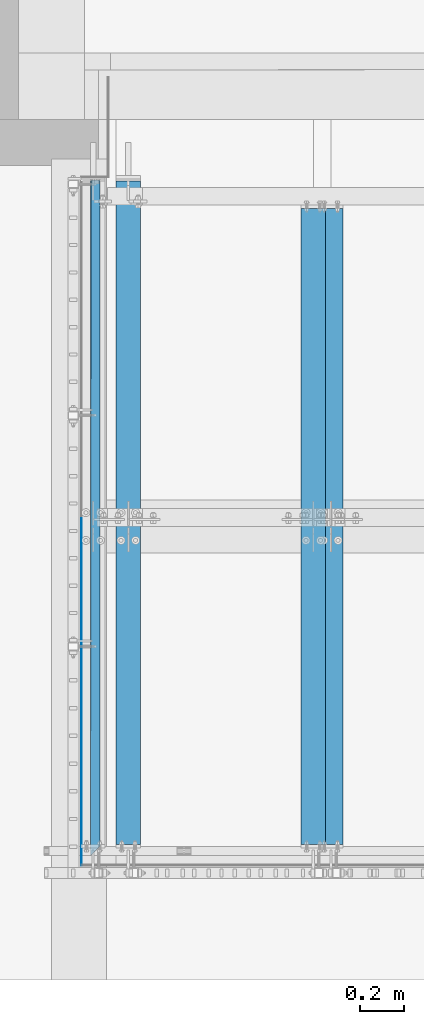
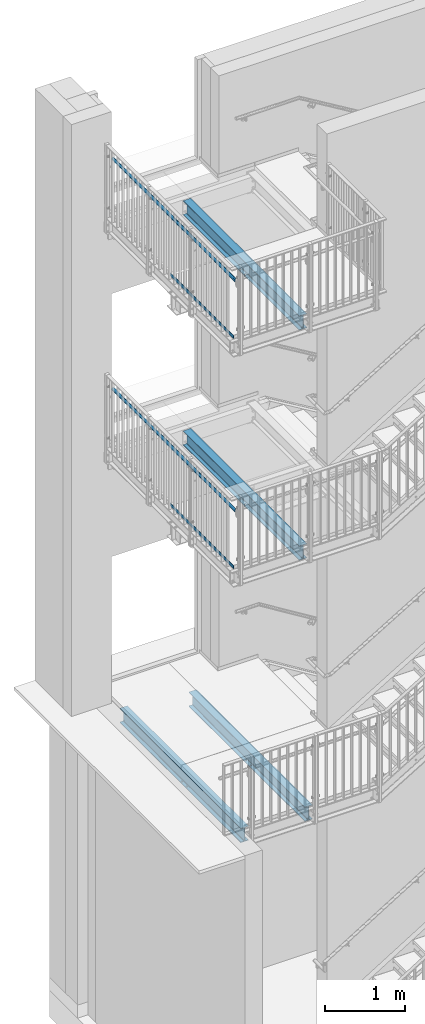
# One storey, part 26 of 410: 8 beams, 18 openings.
"""IFC2X3 building model written with IfcOpenShell, lengths in millimetres."""

import ifcopenshell
import ifcopenshell.guid

model = None  # the IFC model being written
_history = None  # IfcOwnerHistory: only IFC2X3 demands one
_inside = {}  # id of a spatial element -> (the spatial element, [elements in it])
_under = {}  # id of a project, library or spatial element -> (it, [spatial elements below it])
_declared = {}  # id of a project -> (the project, [libraries it declares])
_typed = {}  # id of a type object -> (the type object, [elements of that type])
_made_of = {}  # id of a material, layer set ... -> (it, [elements and type objects made of it])


def new_model(schema):
    """Start an empty IFC model of exactly this schema.

    Asked for "IFC4X3", IfcOpenShell would pick the latest addendum, in which some entities
    have other attributes; the version numbers below select the first issue.
    IFC2X3 requires an IfcOwnerHistory on every rooted entity: one is made here for all.
    """
    global model, _history
    if schema == "IFC4X3":
        model = ifcopenshell.file(schema_version=(4, 3, 0, 0))
    else:
        model = ifcopenshell.file(schema=schema)
    _inside.clear()
    _under.clear()
    _declared.clear()
    _typed.clear()
    _made_of.clear()
    _history = None
    if model.schema == "IFC2X3":
        org = make("IfcOrganization", Name="unknown")
        user = make(
            "IfcPersonAndOrganization",
            ThePerson=make("IfcPerson", FamilyName="unknown"),
            TheOrganization=org,
        )
        app = make(
            "IfcApplication",
            ApplicationDeveloper=org,
            Version="unknown",
            ApplicationFullName="unknown",
            ApplicationIdentifier="unknown",
        )
        _history = make(
            "IfcOwnerHistory",
            OwningUser=user,
            OwningApplication=app,
            ChangeAction="ADDED",
            CreationDate=0,
        )
    return model


def make(cls, **values):
    """One entity of the class cls with the attributes given. An attribute that is None is left unset."""
    return model.create_entity(
        cls, **{name: value for name, value in values.items() if value is not None}
    )


def entity(cls, *values):
    """Any entity or typed value of the class cls, its attributes in the order of the schema. None: left unset."""
    e = model.create_entity(cls)
    for i, value in enumerate(values):
        if value is not None:
            e[i] = value
    return e


def rooted(cls, **values):
    """An entity with a GlobalId (a new one), such as an element, a storey or a relation."""
    return make(cls, GlobalId=ifcopenshell.guid.new(), OwnerHistory=_history, **values)


def si_unit(unit_type, name, prefix=None):
    """IfcSIUnit, for example si_unit("LENGTHUNIT", "METRE", prefix="MILLI")."""
    return make("IfcSIUnit", UnitType=unit_type, Prefix=prefix, Name=name)


def converted_unit(unit_type, name, factor, base, dimensions=None, offset=None):
    """IfcConversionBasedUnit, such as the inch: factor (a typed value) times the base unit."""
    return make(
        "IfcConversionBasedUnit"
        if offset is None
        else "IfcConversionBasedUnitWithOffset",
        ConversionOffset=offset,
        Dimensions=None
        if dimensions is None
        else entity("IfcDimensionalExponents", *dimensions),
        UnitType=unit_type,
        Name=name,
        ConversionFactor=make(
            "IfcMeasureWithUnit", ValueComponent=factor, UnitComponent=base
        ),
    )


def assignment(units):
    """IfcUnitAssignment: the units of a project."""
    return None if units is None else make("IfcUnitAssignment", Units=units)


def point(xyz):
    """IfcCartesianPoint."""
    return None if xyz is None else make("IfcCartesianPoint", Coordinates=xyz)


def direction(xyz):
    """IfcDirection."""
    return None if xyz is None else make("IfcDirection", DirectionRatios=xyz)


def frame(location, z_axis=None, x_axis=None):
    """IfcAxis2Placement3D, a coordinate frame: its origin and axes. An axis left out is left unset."""
    return make(
        "IfcAxis2Placement3D",
        Location=point(location),
        Axis=direction(z_axis),
        RefDirection=direction(x_axis),
    )


def frame_2d(location, x_axis=None):
    """IfcAxis2Placement2D, a coordinate frame in the plane: its origin and x axis."""
    return make(
        "IfcAxis2Placement2D", Location=point(location), RefDirection=direction(x_axis)
    )


def origin():
    """The frame at (0, 0, 0) with its axes left unset."""
    return frame((0.0, 0.0, 0.0))


def origin_with_axes():
    """The frame at (0, 0, 0) with the z axis (0, 0, 1) and the x axis (1, 0, 0) written out."""
    return frame((0.0, 0.0, 0.0), z_axis=(0.0, 0.0, 1.0), x_axis=(1.0, 0.0, 0.0))


def origin_2d():
    """The frame at (0, 0) in the plane with its x axis left unset."""
    return frame_2d((0.0, 0.0))


def origin_2d_with_axis():
    """The frame at (0, 0) in the plane with the x axis (1, 0) written out."""
    return frame_2d((0.0, 0.0), x_axis=(1.0, 0.0))


def place(relative_to, where):
    """IfcLocalPlacement: puts the frame where relative to a parent placement (None: the world)."""
    return make(
        "IfcLocalPlacement", PlacementRelTo=relative_to, RelativePlacement=where
    )


def context(
    kind, dimensions, precision=None, world=None, true_north=None, identifier=None
):
    """IfcGeometricRepresentationContext, for example the 3D "Model" context."""
    return make(
        "IfcGeometricRepresentationContext",
        ContextIdentifier=identifier,
        ContextType=kind,
        CoordinateSpaceDimension=dimensions,
        Precision=precision,
        WorldCoordinateSystem=world,
        TrueNorth=true_north,
    )


def project(units=None, contexts=None):
    """IfcProject with its units and contexts."""
    return rooted(
        "IfcProject",
        Name="project",
        RepresentationContexts=contexts,
        UnitsInContext=assignment(units),
    )


def spatial(cls, under=None, at=None, **own):
    """A site, building, storey or space (cls), placed at a placement, below another one or the project."""
    s = rooted(cls, ObjectPlacement=at, **own)
    if under is not None:
        _under.setdefault(under.id(), (under, []))[1].append(s)
    return s


def circle_curve(where, radius):
    """IfcCircle in the frame where."""
    return make("IfcCircle", Position=where, Radius=radius)


def line_curve(start, along, magnitude):
    """IfcLine from a point along a vector."""
    return make(
        "IfcLine",
        Pnt=point(start),
        Dir=make("IfcVector", Orientation=direction(along), Magnitude=magnitude),
    )


def trimmed(basis, trim1, trim2, sense, master):
    """IfcTrimmedCurve: the piece of a basis curve between two trims."""
    return make(
        "IfcTrimmedCurve",
        BasisCurve=basis,
        Trim1=trim1,
        Trim2=trim2,
        SenseAgreement=sense,
        MasterRepresentation=master,
    )


def segment(curve, same_sense, transition):
    """IfcCompositeCurveSegment."""
    return make(
        "IfcCompositeCurveSegment",
        Transition=transition,
        SameSense=same_sense,
        ParentCurve=curve,
    )


def composite_curve(segments, self_intersect=None):
    """IfcCompositeCurve: segments joined end to end."""
    return make("IfcCompositeCurve", Segments=segments, SelfIntersect=self_intersect)


def profile(cls, at=None, kind="AREA", **sizes):
    """A parametric profile (cls). Its sizes go by their IFC names, for example OverallWidth=200.0."""
    return make(cls, ProfileType=kind, Position=at, **sizes)


def rectangle(**sizes):
    """IfcRectangleProfileDef."""
    return profile("IfcRectangleProfileDef", **sizes)


def circle(**sizes):
    """IfcCircleProfileDef."""
    return profile("IfcCircleProfileDef", **sizes)


def hollow_circle(**sizes):
    """IfcCircleHollowProfileDef."""
    return profile("IfcCircleHollowProfileDef", **sizes)


def i_section(**sizes):
    """IfcIShapeProfileDef."""
    return profile("IfcIShapeProfileDef", **sizes)


def outline(outer, holes=None, kind="AREA"):
    """IfcArbitraryClosedProfileDef: a profile drawn as a closed curve; with holes, ...WithVoids."""
    if holes is None:
        return make("IfcArbitraryClosedProfileDef", ProfileType=kind, OuterCurve=outer)
    return make(
        "IfcArbitraryProfileDefWithVoids",
        ProfileType=kind,
        OuterCurve=outer,
        InnerCurves=holes,
    )


def extrude(swept, where, along, depth):
    """IfcExtrudedAreaSolid: the profile swept, set in the frame where, extruded along a direction by depth."""
    return make(
        "IfcExtrudedAreaSolid",
        SweptArea=swept,
        Position=where,
        ExtrudedDirection=direction(along),
        Depth=depth,
    )


def clip(a, b, op="DIFFERENCE"):
    """IfcBooleanClippingResult: the solid a cut by the half space b."""
    return make(
        "IfcBooleanClippingResult", Operator=op, FirstOperand=a, SecondOperand=b
    )


def halfspace(plane, agree):
    """IfcHalfSpaceSolid: all space on one side of the plane z = 0 of the frame plane."""
    return make(
        "IfcHalfSpaceSolid",
        BaseSurface=make("IfcPlane", Position=plane),
        AgreementFlag=agree,
    )


def shape(context_of_items, identifier, shape_type, items):
    """IfcShapeRepresentation: the items that make up one representation, for example the "Body"."""
    return make(
        "IfcShapeRepresentation",
        ContextOfItems=context_of_items,
        RepresentationIdentifier=identifier,
        RepresentationType=shape_type,
        Items=items,
    )


def material(Name=None, Category=None):
    """IfcMaterial."""
    return make("IfcMaterial", Name=Name, Category=Category)


def made_of(thing, what):
    """Note that an element or type object is made of a material, layer set ...; save() writes the relation."""
    if what is not None:
        _made_of.setdefault(what.id(), (what, []))[1].append(thing)
    return thing


def element(
    cls,
    number,
    at=None,
    inside=None,
    cuts=None,
    type_object=None,
    material=None,
    context=None,
    identifier="Body",
    shape_type=None,
    held_by="IfcProductDefinitionShape",
    body=None,
    shapes=None,
    **own,
):
    """One element of the class cls, such as IfcWall. Its Tag is "e" and its number.

    at: its placement. inside: the storey or other place that contains it. cuts: it is an
    opening in that element (IfcRelVoidsElement). A single representation is given by context,
    identifier, shape_type and body (its items); several are given by shapes. held_by: the class
    of the entity that holds the representations. save() writes the other relations.
    """
    e = rooted(cls, Tag="e%d" % number, ObjectPlacement=at, **own)
    if body is not None:
        shapes = [shape(context, identifier, shape_type, body)]
    if shapes is not None:
        e.Representation = make(held_by, Representations=shapes)
    if inside is not None:
        _inside.setdefault(inside.id(), (inside, []))[1].append(e)
    if cuts is not None:
        rooted(
            "IfcRelVoidsElement", RelatingBuildingElement=cuts, RelatedOpeningElement=e
        )
    if type_object is not None:
        _typed.setdefault(type_object.id(), (type_object, []))[1].append(e)
    return made_of(e, material)


def aggregate(whole, parts):
    """IfcRelAggregates: a whole, such as a stair, and the parts it consists of."""
    return rooted("IfcRelAggregates", RelatingObject=whole, RelatedObjects=parts)


def save(model, path):
    """Write the relations noted so far, then the file.

    IfcRelAggregates (storeys below a building ...), IfcRelContainedInSpatialStructure (elements
    in a storey), IfcRelDefinesByType, IfcRelAssociatesMaterial and IfcRelDeclares: one each for
    every whole, place, type object, material and project.
    """
    for whole, parts in _under.values():
        aggregate(whole, parts)
    for where, things in _inside.values():
        rooted(
            "IfcRelContainedInSpatialStructure",
            RelatedElements=things,
            RelatingStructure=where,
        )
    for kind, things in _typed.values():
        rooted("IfcRelDefinesByType", RelatedObjects=things, RelatingType=kind)
    for what, things in _made_of.values():
        rooted("IfcRelAssociatesMaterial", RelatedObjects=things, RelatingMaterial=what)
    for by, libraries in _declared.values():
        rooted("IfcRelDeclares", RelatingContext=by, RelatedDefinitions=libraries)
    model.write(path)


model = new_model("IFC2X3")

# Units and contexts
model_context = context("Model", 3, precision=1e-09, world=origin_with_axes())
ifc_project = project(units=[si_unit("LENGTHUNIT", "METRE", prefix="MILLI"), si_unit("AREAUNIT", "SQUARE_METRE"), si_unit("VOLUMEUNIT", "CUBIC_METRE"), converted_unit("PLANEANGLEUNIT", "DEGREE", entity("IfcPlaneAngleMeasure", 0.01745329), si_unit("PLANEANGLEUNIT", "RADIAN"), dimensions=[0, 0, 0, 0, 0, 0, 0])], contexts=[model_context])

# Site, building, storey
site_placement = place(None, origin_with_axes())
site = spatial("IfcSite", under=ifc_project, at=site_placement, Name="mKR Teilneubau & Sanierung BA1 - Ostfildern", CompositionType="ELEMENT")
building_placement = place(site_placement, origin_with_axes())
building = spatial("IfcBuilding", under=site, at=building_placement, Name="Struktur 1", CompositionType="ELEMENT")
storey_placement = place(building_placement, origin_with_axes())
storey = spatial("IfcBuildingStorey", under=building, at=storey_placement, Name="Default Storey", CompositionType="ELEMENT", Elevation=0.0)

# Beam, openings
ifc_material = material(Name="S235JR")
beam_1_placement = place(None, frame((-2809.9985317, 18424.99935555, 7330.0), z_axis=(0.0, 1.0, 0.0), x_axis=(1.0, 0.0, 0.0)))
beam_1 = element("IfcBeam", 1, at=beam_1_placement, inside=storey, material=ifc_material, Name="-", ObjectType="-", context=model_context, shape_type="SweptSolid", body=[
    extrude(i_section(OverallWidth=110.0, OverallDepth=220.0, WebThickness=5.9, FlangeThickness=9.2, FilletRadius=12.0, at=origin_2d()), origin(), (0.0, 0.0, -1.0), 2889.999355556),
])
opening_1_placement = place(beam_1_placement, frame((33.0, 110.5, -1381.99935555), z_axis=(0.0, -1.0, 0.0), x_axis=(1.0, 0.0, 0.0)))
element("IfcOpeningElement", 2, at=opening_1_placement, cuts=beam_1, ObjectType="Opening", context=model_context, shape_type="SweptSolid", body=[
    extrude(outline(composite_curve([segment(trimmed(line_curve((7.001, -8.0), (0.0, 1.0), 16.0), [point((7.001, -8.0))], [point((7.001, 8.0))], True, "CARTESIAN"), True, "CONTINUOUS"), segment(trimmed(circle_curve(frame_2d((0.0, 8.0), x_axis=(1.0, 0.0)), 7.001), [point((7.001, 8.0))], [point((-7.001, 8.0))], True, "CARTESIAN"), True, "CONTINUOUS"), segment(trimmed(line_curve((-7.001, 8.0), (0.0, -1.0), 16.0), [point((-7.001, 8.0))], [point((-7.001, -8.0))], True, "CARTESIAN"), True, "CONTINUOUS"), segment(trimmed(circle_curve(frame_2d((0.0, -8.0), x_axis=(1.0, 0.0)), 7.001), [point((-7.001, -8.0))], [point((7.001, -8.0))], True, "CARTESIAN"), True, "CONTINUOUS")], self_intersect=False)), origin(), (0.0, 0.0, 1.0), 10.2),
])
opening_2_placement = place(beam_1_placement, frame((33.0, 110.5, -1507.99935555), z_axis=(0.0, -1.0, 0.0), x_axis=(1.0, 0.0, 0.0)))
element("IfcOpeningElement", 3, at=opening_2_placement, cuts=beam_1, ObjectType="Opening", context=model_context, shape_type="SweptSolid", body=[
    extrude(outline(composite_curve([segment(trimmed(line_curve((7.001, -8.0), (0.0, 1.0), 16.0), [point((7.001, -8.0))], [point((7.001, 8.0))], True, "CARTESIAN"), True, "CONTINUOUS"), segment(trimmed(circle_curve(frame_2d((0.0, 8.0), x_axis=(1.0, 0.0)), 7.001), [point((7.001, 8.0))], [point((-7.001, 8.0))], True, "CARTESIAN"), True, "CONTINUOUS"), segment(trimmed(line_curve((-7.001, 8.0), (0.0, -1.0), 16.0), [point((-7.001, 8.0))], [point((-7.001, -8.0))], True, "CARTESIAN"), True, "CONTINUOUS"), segment(trimmed(circle_curve(frame_2d((0.0, -8.0), x_axis=(1.0, 0.0)), 7.001), [point((-7.001, -8.0))], [point((7.001, -8.0))], True, "CARTESIAN"), True, "CONTINUOUS")], self_intersect=False)), origin(), (0.0, 0.0, 1.0), 10.2),
])
opening_3_placement = place(beam_1_placement, frame((-33.0, 110.5, -1381.99935555), z_axis=(0.0, -1.0, 0.0), x_axis=(1.0, 0.0, 0.0)))
element("IfcOpeningElement", 4, at=opening_3_placement, cuts=beam_1, ObjectType="Opening", context=model_context, shape_type="SweptSolid", body=[
    extrude(outline(composite_curve([segment(trimmed(line_curve((7.001, -8.0), (0.0, 1.0), 16.0), [point((7.001, -8.0))], [point((7.001, 8.0))], True, "CARTESIAN"), True, "CONTINUOUS"), segment(trimmed(circle_curve(frame_2d((0.0, 8.0), x_axis=(1.0, 0.0)), 7.001), [point((7.001, 8.0))], [point((-7.001, 8.0))], True, "CARTESIAN"), True, "CONTINUOUS"), segment(trimmed(line_curve((-7.001, 8.0), (0.0, -1.0), 16.0), [point((-7.001, 8.0))], [point((-7.001, -8.0))], True, "CARTESIAN"), True, "CONTINUOUS"), segment(trimmed(circle_curve(frame_2d((0.0, -8.0), x_axis=(1.0, 0.0)), 7.001), [point((-7.001, -8.0))], [point((7.001, -8.0))], True, "CARTESIAN"), True, "CONTINUOUS")], self_intersect=False)), origin(), (0.0, 0.0, 1.0), 10.2),
])
opening_4_placement = place(beam_1_placement, frame((-33.0, 110.5, -1507.99935555), z_axis=(0.0, -1.0, 0.0), x_axis=(1.0, 0.0, 0.0)))
element("IfcOpeningElement", 5, at=opening_4_placement, cuts=beam_1, ObjectType="Opening", context=model_context, shape_type="SweptSolid", body=[
    extrude(outline(composite_curve([segment(trimmed(line_curve((7.001, -8.0), (0.0, 1.0), 16.0), [point((7.001, -8.0))], [point((7.001, 8.0))], True, "CARTESIAN"), True, "CONTINUOUS"), segment(trimmed(circle_curve(frame_2d((0.0, 8.0), x_axis=(1.0, 0.0)), 7.001), [point((7.001, 8.0))], [point((-7.001, 8.0))], True, "CARTESIAN"), True, "CONTINUOUS"), segment(trimmed(line_curve((-7.001, 8.0), (0.0, -1.0), 16.0), [point((-7.001, 8.0))], [point((-7.001, -8.0))], True, "CARTESIAN"), True, "CONTINUOUS"), segment(trimmed(circle_curve(frame_2d((0.0, -8.0), x_axis=(1.0, 0.0)), 7.001), [point((-7.001, -8.0))], [point((7.001, -8.0))], True, "CARTESIAN"), True, "CONTINUOUS")], self_intersect=False)), origin(), (0.0, 0.0, 1.0), 10.2),
])

beam_2_placement = place(None, frame((-2809.9985317, 18424.99935555, 3830.0), z_axis=(0.0, 1.0, 0.0), x_axis=(1.0, 0.0, 0.0)))
beam_2 = element("IfcBeam", 6, at=beam_2_placement, inside=storey, material=ifc_material, Name="-", ObjectType="-", context=model_context, shape_type="SweptSolid", body=[
    extrude(i_section(OverallWidth=110.0, OverallDepth=220.0, WebThickness=5.9, FlangeThickness=9.2, FilletRadius=12.0, at=origin_2d()), origin(), (0.0, 0.0, -1.0), 2889.999355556),
])
opening_5_placement = place(beam_2_placement, frame((-33.0, 110.5, -1381.99935555), z_axis=(0.0, -1.0, 0.0), x_axis=(1.0, 0.0, 0.0)))
element("IfcOpeningElement", 7, at=opening_5_placement, cuts=beam_2, ObjectType="Opening", context=model_context, shape_type="SweptSolid", body=[
    extrude(outline(composite_curve([segment(trimmed(line_curve((7.001, -8.0), (0.0, 1.0), 16.0), [point((7.001, -8.0))], [point((7.001, 8.0))], True, "CARTESIAN"), True, "CONTINUOUS"), segment(trimmed(circle_curve(frame_2d((0.0, 8.0), x_axis=(1.0, 0.0)), 7.001), [point((7.001, 8.0))], [point((-7.001, 8.0))], True, "CARTESIAN"), True, "CONTINUOUS"), segment(trimmed(line_curve((-7.001, 8.0), (0.0, -1.0), 16.0), [point((-7.001, 8.0))], [point((-7.001, -8.0))], True, "CARTESIAN"), True, "CONTINUOUS"), segment(trimmed(circle_curve(frame_2d((0.0, -8.0), x_axis=(1.0, 0.0)), 7.001), [point((-7.001, -8.0))], [point((7.001, -8.0))], True, "CARTESIAN"), True, "CONTINUOUS")], self_intersect=False)), origin(), (0.0, 0.0, 1.0), 10.2),
])
opening_6_placement = place(beam_2_placement, frame((33.0, 110.5, -1381.99935555), z_axis=(0.0, -1.0, 0.0), x_axis=(1.0, 0.0, 0.0)))
element("IfcOpeningElement", 8, at=opening_6_placement, cuts=beam_2, ObjectType="Opening", context=model_context, shape_type="SweptSolid", body=[
    extrude(outline(composite_curve([segment(trimmed(line_curve((7.001, -8.0), (0.0, 1.0), 16.0), [point((7.001, -8.0))], [point((7.001, 8.0))], True, "CARTESIAN"), True, "CONTINUOUS"), segment(trimmed(circle_curve(frame_2d((0.0, 8.0), x_axis=(1.0, 0.0)), 7.001), [point((7.001, 8.0))], [point((-7.001, 8.0))], True, "CARTESIAN"), True, "CONTINUOUS"), segment(trimmed(line_curve((-7.001, 8.0), (0.0, -1.0), 16.0), [point((-7.001, 8.0))], [point((-7.001, -8.0))], True, "CARTESIAN"), True, "CONTINUOUS"), segment(trimmed(circle_curve(frame_2d((0.0, -8.0), x_axis=(1.0, 0.0)), 7.001), [point((-7.001, -8.0))], [point((7.001, -8.0))], True, "CARTESIAN"), True, "CONTINUOUS")], self_intersect=False)), origin(), (0.0, 0.0, 1.0), 10.2),
])
opening_7_placement = place(beam_2_placement, frame((33.0, 110.5, -1507.99935555), z_axis=(0.0, -1.0, 0.0), x_axis=(1.0, 0.0, 0.0)))
element("IfcOpeningElement", 9, at=opening_7_placement, cuts=beam_2, ObjectType="Opening", context=model_context, shape_type="SweptSolid", body=[
    extrude(outline(composite_curve([segment(trimmed(line_curve((7.001, -8.0), (0.0, 1.0), 16.0), [point((7.001, -8.0))], [point((7.001, 8.0))], True, "CARTESIAN"), True, "CONTINUOUS"), segment(trimmed(circle_curve(frame_2d((0.0, 8.0), x_axis=(1.0, 0.0)), 7.001), [point((7.001, 8.0))], [point((-7.001, 8.0))], True, "CARTESIAN"), True, "CONTINUOUS"), segment(trimmed(line_curve((-7.001, 8.0), (0.0, -1.0), 16.0), [point((-7.001, 8.0))], [point((-7.001, -8.0))], True, "CARTESIAN"), True, "CONTINUOUS"), segment(trimmed(circle_curve(frame_2d((0.0, -8.0), x_axis=(1.0, 0.0)), 7.001), [point((-7.001, -8.0))], [point((7.001, -8.0))], True, "CARTESIAN"), True, "CONTINUOUS")], self_intersect=False)), origin(), (0.0, 0.0, 1.0), 10.2),
])
opening_8_placement = place(beam_2_placement, frame((-33.0, 110.5, -1507.99935555), z_axis=(0.0, -1.0, 0.0), x_axis=(1.0, 0.0, 0.0)))
element("IfcOpeningElement", 10, at=opening_8_placement, cuts=beam_2, ObjectType="Opening", context=model_context, shape_type="SweptSolid", body=[
    extrude(outline(composite_curve([segment(trimmed(line_curve((7.001, -8.0), (0.0, 1.0), 16.0), [point((7.001, -8.0))], [point((7.001, 8.0))], True, "CARTESIAN"), True, "CONTINUOUS"), segment(trimmed(circle_curve(frame_2d((0.0, 8.0), x_axis=(1.0, 0.0)), 7.001), [point((7.001, 8.0))], [point((-7.001, 8.0))], True, "CARTESIAN"), True, "CONTINUOUS"), segment(trimmed(line_curve((-7.001, 8.0), (0.0, -1.0), 16.0), [point((-7.001, 8.0))], [point((-7.001, -8.0))], True, "CARTESIAN"), True, "CONTINUOUS"), segment(trimmed(circle_curve(frame_2d((0.0, -8.0), x_axis=(1.0, 0.0)), 7.001), [point((-7.001, -8.0))], [point((7.001, -8.0))], True, "CARTESIAN"), True, "CONTINUOUS")], self_intersect=False)), origin(), (0.0, 0.0, 1.0), 10.2),
])

beam_3_placement = place(None, frame((-2729.9985317, 18424.99935555, -170.0), z_axis=(0.0, 1.0, 0.0), x_axis=(1.0, 0.0, 0.0)))
beam_3 = element("IfcBeam", 11, at=beam_3_placement, inside=storey, material=ifc_material, Name="-", ObjectType="-", context=model_context, shape_type="SweptSolid", body=[
    extrude(i_section(OverallWidth=110.0, OverallDepth=220.0, WebThickness=5.9, FlangeThickness=9.2, FilletRadius=12.0, at=origin_2d()), origin(), (0.0, 0.0, -1.0), 2889.999355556),
])
opening_9_placement = place(beam_3_placement, frame((-33.0, 110.5, -1381.99935555), z_axis=(0.0, -1.0, 0.0), x_axis=(1.0, 0.0, 0.0)))
element("IfcOpeningElement", 12, at=opening_9_placement, cuts=beam_3, ObjectType="Opening", context=model_context, shape_type="SweptSolid", body=[
    extrude(outline(composite_curve([segment(trimmed(line_curve((7.001, -8.0), (0.0, 1.0), 16.0), [point((7.001, -8.0))], [point((7.001, 8.0))], True, "CARTESIAN"), True, "CONTINUOUS"), segment(trimmed(circle_curve(frame_2d((0.0, 8.0), x_axis=(1.0, 0.0)), 7.001), [point((7.001, 8.0))], [point((-7.001, 8.0))], True, "CARTESIAN"), True, "CONTINUOUS"), segment(trimmed(line_curve((-7.001, 8.0), (0.0, -1.0), 16.0), [point((-7.001, 8.0))], [point((-7.001, -8.0))], True, "CARTESIAN"), True, "CONTINUOUS"), segment(trimmed(circle_curve(frame_2d((0.0, -8.0), x_axis=(1.0, 0.0)), 7.001), [point((-7.001, -8.0))], [point((7.001, -8.0))], True, "CARTESIAN"), True, "CONTINUOUS")], self_intersect=False)), origin(), (0.0, 0.0, 1.0), 10.2),
])
opening_10_placement = place(beam_3_placement, frame((-33.0, 110.5, -1507.99935555), z_axis=(0.0, -1.0, 0.0), x_axis=(1.0, 0.0, 0.0)))
element("IfcOpeningElement", 13, at=opening_10_placement, cuts=beam_3, ObjectType="Opening", context=model_context, shape_type="SweptSolid", body=[
    extrude(outline(composite_curve([segment(trimmed(line_curve((7.001, -8.0), (0.0, 1.0), 16.0), [point((7.001, -8.0))], [point((7.001, 8.0))], True, "CARTESIAN"), True, "CONTINUOUS"), segment(trimmed(circle_curve(frame_2d((0.0, 8.0), x_axis=(1.0, 0.0)), 7.001), [point((7.001, 8.0))], [point((-7.001, 8.0))], True, "CARTESIAN"), True, "CONTINUOUS"), segment(trimmed(line_curve((-7.001, 8.0), (0.0, -1.0), 16.0), [point((-7.001, 8.0))], [point((-7.001, -8.0))], True, "CARTESIAN"), True, "CONTINUOUS"), segment(trimmed(circle_curve(frame_2d((0.0, -8.0), x_axis=(1.0, 0.0)), 7.001), [point((-7.001, -8.0))], [point((7.001, -8.0))], True, "CARTESIAN"), True, "CONTINUOUS")], self_intersect=False)), origin(), (0.0, 0.0, 1.0), 10.2),
])
opening_11_placement = place(beam_3_placement, frame((33.0, 110.5, -1381.99935555), z_axis=(0.0, -1.0, 0.0), x_axis=(1.0, 0.0, 0.0)))
element("IfcOpeningElement", 14, at=opening_11_placement, cuts=beam_3, ObjectType="Opening", context=model_context, shape_type="SweptSolid", body=[
    extrude(outline(composite_curve([segment(trimmed(line_curve((7.001, -8.0), (0.0, 1.0), 16.0), [point((7.001, -8.0))], [point((7.001, 8.0))], True, "CARTESIAN"), True, "CONTINUOUS"), segment(trimmed(circle_curve(frame_2d((0.0, 8.0), x_axis=(1.0, 0.0)), 7.001), [point((7.001, 8.0))], [point((-7.001, 8.0))], True, "CARTESIAN"), True, "CONTINUOUS"), segment(trimmed(line_curve((-7.001, 8.0), (0.0, -1.0), 16.0), [point((-7.001, 8.0))], [point((-7.001, -8.0))], True, "CARTESIAN"), True, "CONTINUOUS"), segment(trimmed(circle_curve(frame_2d((0.0, -8.0), x_axis=(1.0, 0.0)), 7.001), [point((-7.001, -8.0))], [point((7.001, -8.0))], True, "CARTESIAN"), True, "CONTINUOUS")], self_intersect=False)), origin(), (0.0, 0.0, 1.0), 10.2),
])
opening_12_placement = place(beam_3_placement, frame((33.0, 110.5, -1507.99935555), z_axis=(0.0, -1.0, 0.0), x_axis=(1.0, 0.0, 0.0)))
element("IfcOpeningElement", 15, at=opening_12_placement, cuts=beam_3, ObjectType="Opening", context=model_context, shape_type="SweptSolid", body=[
    extrude(outline(composite_curve([segment(trimmed(line_curve((7.001, -8.0), (0.0, 1.0), 16.0), [point((7.001, -8.0))], [point((7.001, 8.0))], True, "CARTESIAN"), True, "CONTINUOUS"), segment(trimmed(circle_curve(frame_2d((0.0, 8.0), x_axis=(1.0, 0.0)), 7.001), [point((7.001, 8.0))], [point((-7.001, 8.0))], True, "CARTESIAN"), True, "CONTINUOUS"), segment(trimmed(line_curve((-7.001, 8.0), (0.0, -1.0), 16.0), [point((-7.001, 8.0))], [point((-7.001, -8.0))], True, "CARTESIAN"), True, "CONTINUOUS"), segment(trimmed(circle_curve(frame_2d((0.0, -8.0), x_axis=(1.0, 0.0)), 7.001), [point((-7.001, -8.0))], [point((7.001, -8.0))], True, "CARTESIAN"), True, "CONTINUOUS")], self_intersect=False)), origin(), (0.0, 0.0, 1.0), 10.2),
])

beam_4_placement = place(None, frame((-3649.9985317, 18549.99935555, -170.0), z_axis=(0.0, 1.0, 0.0), x_axis=(1.0, 0.0, 0.0)))
beam_4 = element("IfcBeam", 16, at=beam_4_placement, inside=storey, material=ifc_material, Name="-", ObjectType="-", context=model_context, shape_type="SweptSolid", body=[
    extrude(i_section(OverallWidth=110.0, OverallDepth=220.0, WebThickness=5.9, FlangeThickness=9.2, FilletRadius=12.0, at=origin_2d()), origin(), (0.0, 0.0, -1.0), 3014.999355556),
])
opening_13_placement = place(beam_4_placement, frame((33.0, 110.5, -1632.99935555), z_axis=(0.0, -1.0, 0.0), x_axis=(1.0, 0.0, 0.0)))
element("IfcOpeningElement", 17, at=opening_13_placement, cuts=beam_4, ObjectType="Opening", context=model_context, shape_type="SweptSolid", body=[
    extrude(outline(composite_curve([segment(trimmed(line_curve((7.001, -8.0), (0.0, 1.0), 16.0), [point((7.001, -8.0))], [point((7.001, 8.0))], True, "CARTESIAN"), True, "CONTINUOUS"), segment(trimmed(circle_curve(frame_2d((0.0, 8.0), x_axis=(1.0, 0.0)), 7.001), [point((7.001, 8.0))], [point((-7.001, 8.0))], True, "CARTESIAN"), True, "CONTINUOUS"), segment(trimmed(line_curve((-7.001, 8.0), (0.0, -1.0), 16.0), [point((-7.001, 8.0))], [point((-7.001, -8.0))], True, "CARTESIAN"), True, "CONTINUOUS"), segment(trimmed(circle_curve(frame_2d((0.0, -8.0), x_axis=(1.0, 0.0)), 7.001), [point((-7.001, -8.0))], [point((7.001, -8.0))], True, "CARTESIAN"), True, "CONTINUOUS")], self_intersect=False)), origin(), (0.0, 0.0, 1.0), 10.2),
])
opening_14_placement = place(beam_4_placement, frame((33.0, 110.5, -1506.99935555), z_axis=(0.0, -1.0, 0.0), x_axis=(1.0, 0.0, 0.0)))
element("IfcOpeningElement", 18, at=opening_14_placement, cuts=beam_4, ObjectType="Opening", context=model_context, shape_type="SweptSolid", body=[
    extrude(outline(composite_curve([segment(trimmed(line_curve((7.001, -8.0), (0.0, 1.0), 16.0), [point((7.001, -8.0))], [point((7.001, 8.0))], True, "CARTESIAN"), True, "CONTINUOUS"), segment(trimmed(circle_curve(frame_2d((0.0, 8.0), x_axis=(1.0, 0.0)), 7.001), [point((7.001, 8.0))], [point((-7.001, 8.0))], True, "CARTESIAN"), True, "CONTINUOUS"), segment(trimmed(line_curve((-7.001, 8.0), (0.0, -1.0), 16.0), [point((-7.001, 8.0))], [point((-7.001, -8.0))], True, "CARTESIAN"), True, "CONTINUOUS"), segment(trimmed(circle_curve(frame_2d((0.0, -8.0), x_axis=(1.0, 0.0)), 7.001), [point((-7.001, -8.0))], [point((7.001, -8.0))], True, "CARTESIAN"), True, "CONTINUOUS")], self_intersect=False)), origin(), (0.0, 0.0, 1.0), 10.2),
])
opening_15_placement = place(beam_4_placement, frame((-33.0, 110.5, -1632.99935555), z_axis=(0.0, -1.0, 0.0), x_axis=(1.0, 0.0, 0.0)))
element("IfcOpeningElement", 19, at=opening_15_placement, cuts=beam_4, ObjectType="Opening", context=model_context, shape_type="SweptSolid", body=[
    extrude(outline(composite_curve([segment(trimmed(line_curve((7.001, -8.0), (0.0, 1.0), 16.0), [point((7.001, -8.0))], [point((7.001, 8.0))], True, "CARTESIAN"), True, "CONTINUOUS"), segment(trimmed(circle_curve(frame_2d((0.0, 8.0), x_axis=(1.0, 0.0)), 7.001), [point((7.001, 8.0))], [point((-7.001, 8.0))], True, "CARTESIAN"), True, "CONTINUOUS"), segment(trimmed(line_curve((-7.001, 8.0), (0.0, -1.0), 16.0), [point((-7.001, 8.0))], [point((-7.001, -8.0))], True, "CARTESIAN"), True, "CONTINUOUS"), segment(trimmed(circle_curve(frame_2d((0.0, -8.0), x_axis=(1.0, 0.0)), 7.001), [point((-7.001, -8.0))], [point((7.001, -8.0))], True, "CARTESIAN"), True, "CONTINUOUS")], self_intersect=False)), origin(), (0.0, 0.0, 1.0), 10.2),
])
opening_16_placement = place(beam_4_placement, frame((-33.0, 110.5, -1506.99935555), z_axis=(0.0, -1.0, 0.0), x_axis=(1.0, 0.0, 0.0)))
element("IfcOpeningElement", 20, at=opening_16_placement, cuts=beam_4, ObjectType="Opening", context=model_context, shape_type="SweptSolid", body=[
    extrude(outline(composite_curve([segment(trimmed(line_curve((7.001, -8.0), (0.0, 1.0), 16.0), [point((7.001, -8.0))], [point((7.001, 8.0))], True, "CARTESIAN"), True, "CONTINUOUS"), segment(trimmed(circle_curve(frame_2d((0.0, 8.0), x_axis=(1.0, 0.0)), 7.001), [point((7.001, 8.0))], [point((-7.001, 8.0))], True, "CARTESIAN"), True, "CONTINUOUS"), segment(trimmed(line_curve((-7.001, 8.0), (0.0, -1.0), 16.0), [point((-7.001, 8.0))], [point((-7.001, -8.0))], True, "CARTESIAN"), True, "CONTINUOUS"), segment(trimmed(circle_curve(frame_2d((0.0, -8.0), x_axis=(1.0, 0.0)), 7.001), [point((-7.001, -8.0))], [point((7.001, -8.0))], True, "CARTESIAN"), True, "CONTINUOUS")], self_intersect=False)), origin(), (0.0, 0.0, 1.0), 10.2),
])
opening_17_placement = place(beam_4_placement, frame((-3.45, 79.0, -15.0), z_axis=(1.0, 0.0, 0.0), x_axis=(0.0, 0.0, -1.0)))
element("IfcOpeningElement", 21, at=opening_17_placement, cuts=beam_4, ObjectType="Opening", context=model_context, shape_type="SweptSolid", body=[
    extrude(circle(Radius=7.001, at=origin_2d_with_axis()), origin(), (0.0, 0.0, 1.0), 6.9),
])
opening_18_placement = place(beam_4_placement, frame((-3.45, -79.0, -15.0), z_axis=(1.0, 0.0, 0.0), x_axis=(0.0, 0.0, -1.0)))
element("IfcOpeningElement", 22, at=opening_18_placement, cuts=beam_4, ObjectType="Opening", context=model_context, shape_type="SweptSolid", body=[
    extrude(circle(Radius=7.001, at=origin_2d_with_axis()), origin(), (0.0, 0.0, 1.0), 6.9),
])

# Beams
for number, where, z_axis, x_axis in (
    (23, (-3862.9985317, 15439.999999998, 7525.0), (0.0, -1.0, 0.0), (1.0, 0.0, 0.0)),
    (24, (-3862.9985317, 17018.0, 4025.0), (0.0, 1.0, 0.0), (-1.0, 0.0, 0.0)),
):
    element("IfcBeam", number, at=place(None, frame(where, z_axis=z_axis, x_axis=x_axis)), inside=storey, material=ifc_material, Name="-", ObjectType="-", context=model_context, shape_type="SweptSolid", body=[
        extrude(rectangle(XDim=4.0, YDim=50.0, at=origin_2d()), origin(), (0.0, 0.0, -1.0), 1578.000000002),
    ])
beam_5_placement = place(None, frame((-3799.9485317, 15463.599999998, 8328.8), z_axis=(0.0, -1.0, 0.0), x_axis=(1.0, 0.0, 0.0)))
element("IfcBeam", 25, at=beam_5_placement, inside=storey, Name="-", ObjectType="-", context=model_context, shape_type="Clipping", body=[
    clip(extrude(hollow_circle(Radius=21.2, WallThickness=3.2, at=origin_2d()), origin(), (0.0, 0.0, -1.0), 3091.4), halfspace(frame((-5853.026441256, -8328.8, 5810.625027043), z_axis=(-0.707106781, 0.0, -0.707106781), x_axis=(-0.707106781, 0.0, 0.707106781)), True)),
])
beam_6_placement = place(None, frame((-3799.9485317, 18554.999999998, 4828.8), z_axis=(0.0, 1.0, 0.0), x_axis=(-1.0, 0.0, 0.0)))
element("IfcBeam", 26, at=beam_6_placement, inside=storey, Name="-", ObjectType="-", context=model_context, shape_type="Clipping", body=[
    clip(extrude(hollow_circle(Radius=21.2, WallThickness=3.2, at=origin_2d()), origin(), (0.0, 0.0, -1.0), 3091.4), halfspace(frame((5853.026441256, -4828.8, -8902.025027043), z_axis=(0.707106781, 0.0, 0.707106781), x_axis=(0.707106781, 0.0, -0.707106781)), True)),
])

save(model, "model.ifc")
